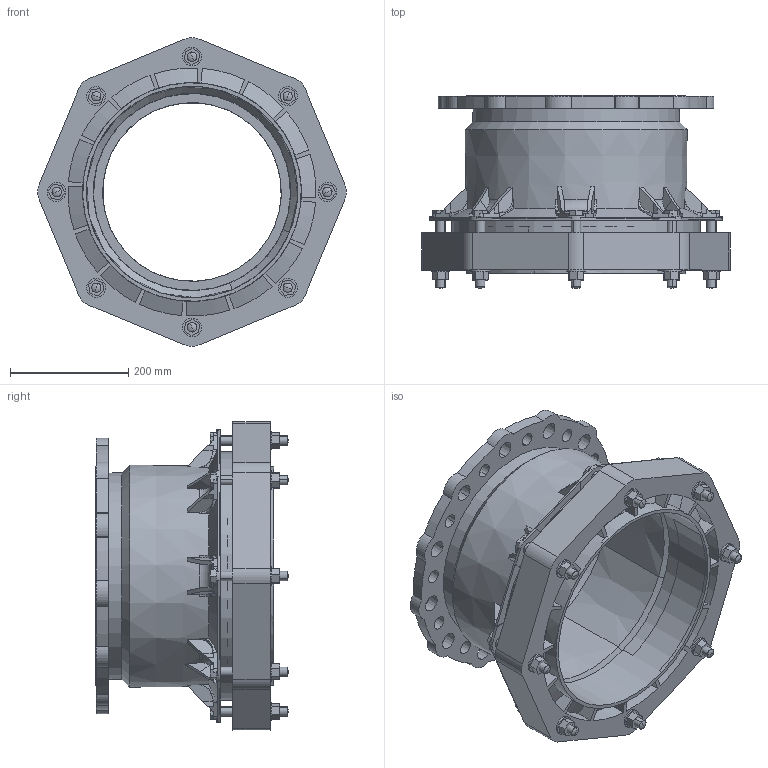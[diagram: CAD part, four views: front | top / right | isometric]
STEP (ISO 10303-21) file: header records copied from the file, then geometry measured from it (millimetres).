
FILE_DESCRIPTION((''),'2;1');
FILE_NAME('BIM_13199_12_ASM','2020-04-01T',('MReader'),(''),'CREO PARAMETRIC BY PTC INC, 2016130','CREO PARAMETRIC BY PTC INC, 2016130','');
FILE_SCHEMA(('CONFIG_CONTROL_DESIGN'));
Length unit declared in the file: millimetre
Products named in the file (5): NEW_BIM_12229; BIM_M16_BOLT_120; BIM_12295; BIM_13129_10; BIM_13199_12_ASM
Assembly tree (11 placements, depth 2):
  BIM_13199_12_ASM
    NEW_BIM_12229
    BIM_M16_BOLT_120  x8
    BIM_12295
    BIM_13129_10
Bounding box: 522.38 x 326 x 522.38 mm (x, y, z)
Volume: 10330044.1 mm3; surface area: 1509793.6 mm2
Topology: 11 solids, 11 shells, 786 faces, 2160 edges, 1408 vertices
Faces by surface type: plane 370, cylinder 154, cone 150, torus 96, sphere 16
Entity records: 24429 total; most frequent: CARTESIAN_POINT 6137, ORIENTED_EDGE 3924, DIRECTION 3736, EDGE_CURVE 1962, AXIS2_PLACEMENT_3D 1448, VERTEX_POINT 1289, VECTOR 840, LINE 840
